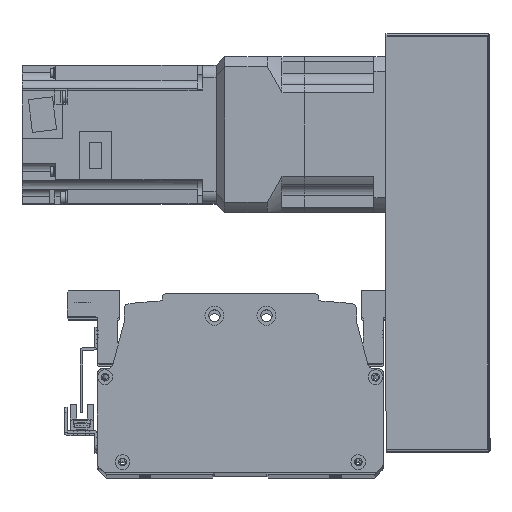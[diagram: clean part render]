
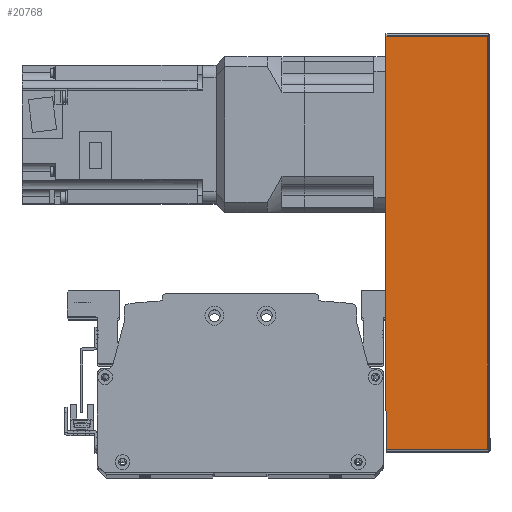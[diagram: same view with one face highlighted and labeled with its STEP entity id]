
A CAD part, top view. The second image highlights one B-rep face of the part: STEP entity #20768.
In plain terms, the highlighted planar face has unit normal (0, 0, 1) as drawn and (0, -1, 0) by its records, which use the part's own axes.
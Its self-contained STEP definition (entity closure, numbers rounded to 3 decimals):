
#562=PLANE('',#22636);
#1680=LINE('',#32989,#3340);
#1706=LINE('',#33085,#3366);
#1707=LINE('',#33093,#3367);
#1714=LINE('',#33118,#3374);
#3340=VECTOR('',#26831,10.);
#3366=VECTOR('',#26949,10.);
#3367=VECTOR('',#26960,10.);
#3374=VECTOR('',#26995,10.);
#5375=FACE_OUTER_BOUND('',#6819,.T.);
#6819=EDGE_LOOP('',(#16320,#16321,#16322,#16323));
#9685=VERTEX_POINT('',#32986);
#9686=VERTEX_POINT('',#32988);
#9710=VERTEX_POINT('',#33081);
#9711=VERTEX_POINT('',#33087);
#12044=EDGE_CURVE('',#9686,#9685,#1680,.T.);
#12094=EDGE_CURVE('',#9685,#9710,#1706,.T.);
#12098=EDGE_CURVE('',#9711,#9686,#1707,.T.);
#12111=EDGE_CURVE('',#9710,#9711,#1714,.T.);
#16320=ORIENTED_EDGE('',*,*,#12094,.T.);
#16321=ORIENTED_EDGE('',*,*,#12111,.T.);
#16322=ORIENTED_EDGE('',*,*,#12098,.T.);
#16323=ORIENTED_EDGE('',*,*,#12044,.T.);
#20768=ADVANCED_FACE('',(#5375),#562,.F.);
#22636=AXIS2_PLACEMENT_3D('',#33124,#27005,#27006);
#26831=DIRECTION('',(1.,0.,0.));
#26949=DIRECTION('',(0.,0.,1.));
#26960=DIRECTION('',(0.,0.,-1.));
#26995=DIRECTION('',(-1.,0.,0.));
#27005=DIRECTION('center_axis',(0.,1.,0.));
#27006=DIRECTION('ref_axis',(1.,0.,0.));
#32986=CARTESIAN_POINT('',(119.5,-51.,-30.));
#32988=CARTESIAN_POINT('',(-119.5,-51.,-30.));
#32989=CARTESIAN_POINT('',(120.5,-51.,-30.));
#33081=CARTESIAN_POINT('',(119.5,-51.,29.));
#33085=CARTESIAN_POINT('',(119.5,-51.,0.));
#33087=CARTESIAN_POINT('',(-119.5,-51.,29.));
#33093=CARTESIAN_POINT('',(-119.5,-51.,0.));
#33118=CARTESIAN_POINT('',(-60.25,-51.,29.));
#33124=CARTESIAN_POINT('Origin',(-120.5,-51.,0.));
